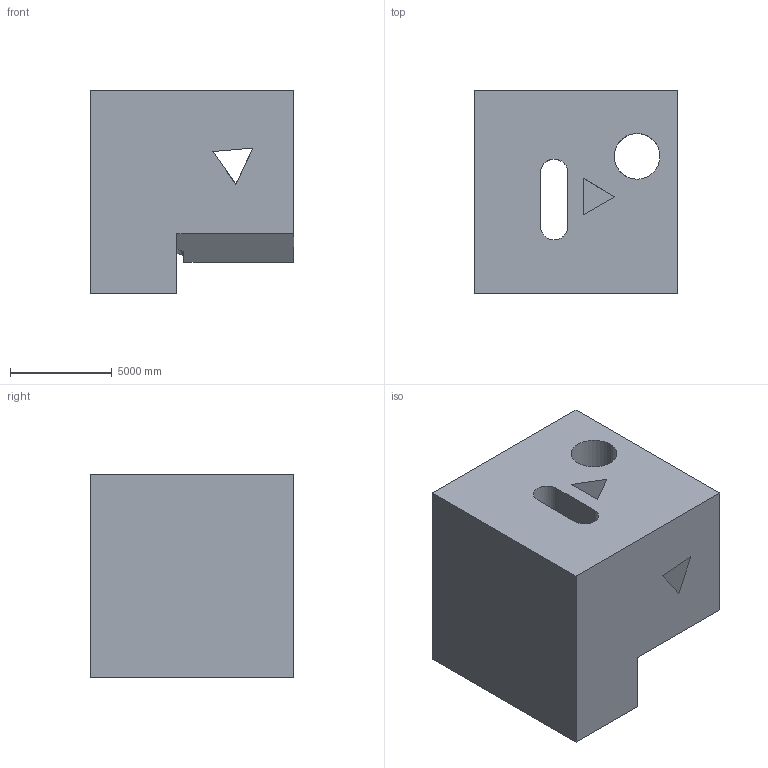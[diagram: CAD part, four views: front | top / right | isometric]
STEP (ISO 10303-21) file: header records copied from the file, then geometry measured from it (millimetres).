
FILE_DESCRIPTION (( 'STEP AP203' ), '1' );
FILE_NAME ('1403.STEP', '2022-08-18T14:16:17', ( 'user' ), ( '' ), 'SwSTEP 2.0', 'SolidWorks 2021', '' );
FILE_SCHEMA (( 'CONFIG_CONTROL_DESIGN' ));
Length unit declared in the file: centimetre
Products named in the file (1): 1403
Bounding box: 10000 x 10000 x 10000 mm (x, y, z)
Volume: 770563756124.1 mm3; surface area: 753726882.7 mm2
Topology: 1 solids, 1 shells, 24 faces, 78 edges, 52 vertices
Faces by surface type: plane 20, cylinder 4
Entity records: 945 total; most frequent: CARTESIAN_POINT 185, ORIENTED_EDGE 156, DIRECTION 124, EDGE_CURVE 78, VECTOR 62, LINE 62, VERTEX_POINT 52, AXIS2_PLACEMENT_3D 31
